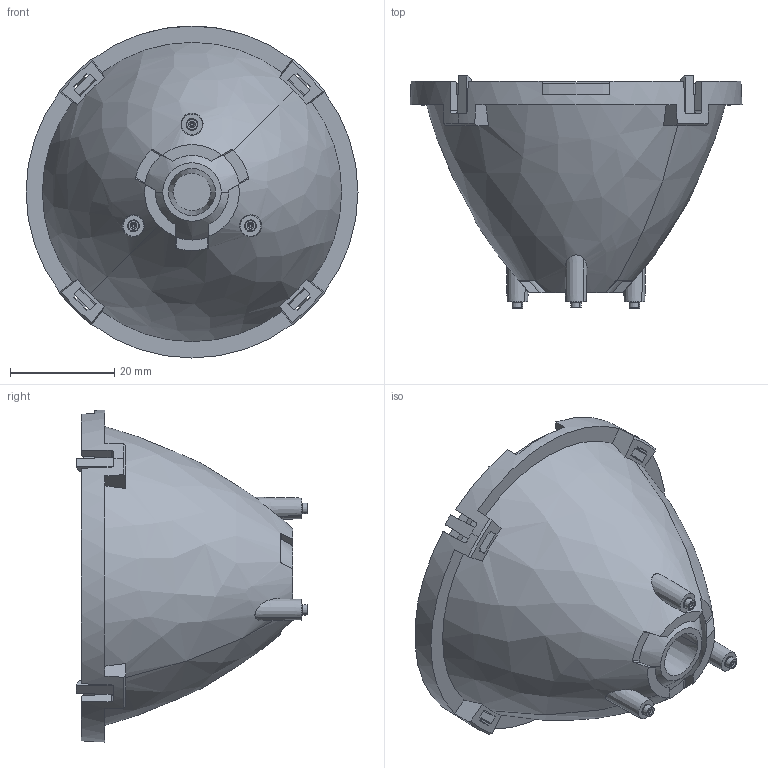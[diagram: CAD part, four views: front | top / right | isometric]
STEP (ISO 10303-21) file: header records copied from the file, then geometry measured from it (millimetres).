
FILE_DESCRIPTION (( 'STEP AP214' ), '1' );
FILE_NAME ('LLSP-2T08-P3_RevA1.STEP', '2012-09-07T21:16:51', ( '' ), ( '' ), 'SwSTEP 2.0', 'SolidWorks 2011', '' );
FILE_SCHEMA (( 'AUTOMOTIVE_DESIGN' ));
Length unit declared in the file: millimetre
Products named in the file (1): LLSP-2T08-P3_RevA1
Bounding box: 63.6 x 44.4 x 63.6 mm (x, y, z)
Volume: 56548.4 mm3; surface area: 23237.3 mm2
Topology: 2 solids, 2 shells, 284 faces, 804 edges, 534 vertices
Faces by surface type: plane 133, cone 73, cylinder 58, bspline 20
Entity records: 13421 total; most frequent: CARTESIAN_POINT 3157, ORIENTED_EDGE 1608, DIRECTION 1372, EDGE_CURVE 804, VERTEX_POINT 534, AXIS2_PLACEMENT_3D 499, LINE 374, VECTOR 374
